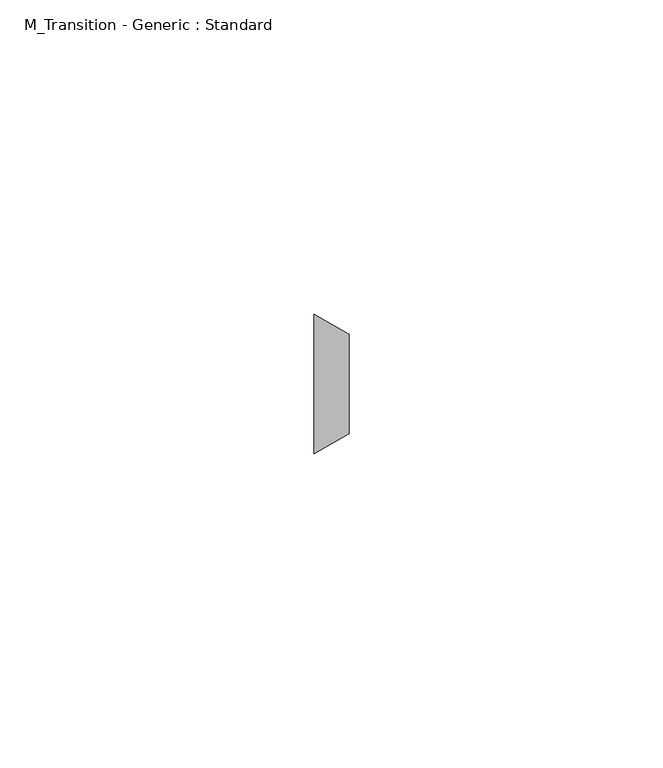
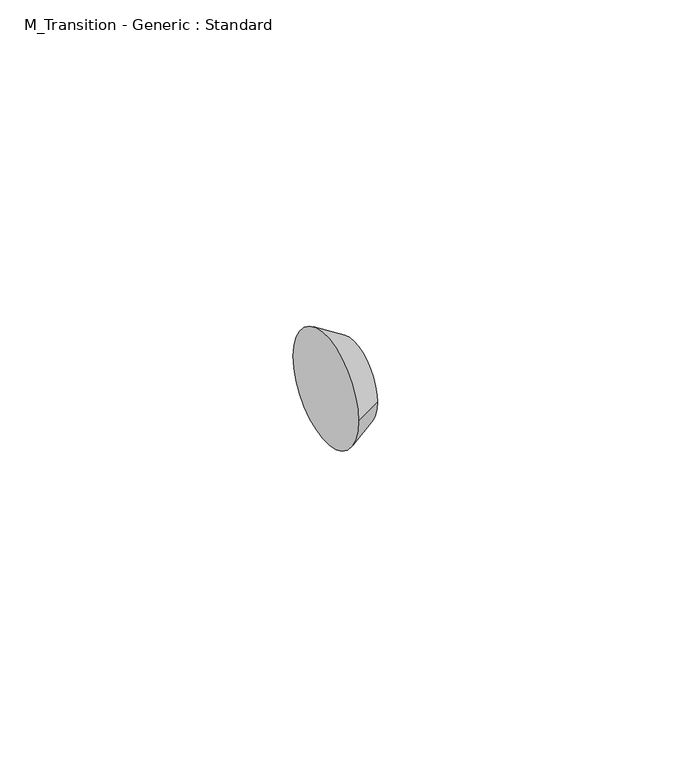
"""IFC4 building model written with IfcOpenShell, lengths in millimetres: pipe fitting geometry, M_Transition - Generic : Standard."""

from ifc_helpers import new_model, si_unit, frame, origin, place, context, project, spatial, polyline, circle_curve, source, transform, mapped, element, save
from ifc_brep_helpers import plane_surface, revolved_surface, advanced_brep


def m_transition_generic_standard_44e35838(model_context):
    return source(origin(), model_context, "Body", "AdvancedBrep", [
        advanced_brep(
        [(5.55625, -7.9375, 0.0), (5.55625, 7.9375, 0.0), (0.0, -11.1125, 0.0), (0.0, 11.1125, 0.0)],
        [
            (0, 1, circle_curve(frame((5.55625, 0.0, 0.0), z_axis=(1.0, 0.0, 0.0), x_axis=(0.0, -1.0, 0.0)), 7.9375)),
            (1, 0, circle_curve(frame((5.55625, 0.0, 0.0), z_axis=(1.0, 0.0, 0.0), x_axis=(0.0, 1.0, 0.0)), 7.9375)),
            (2, 3, circle_curve(frame((0.0, 0.0, 0.0), z_axis=(-1.0, 0.0, 0.0), x_axis=(0.0, 1.0, 0.0)), 11.1125)),
            (3, 2, circle_curve(frame((0.0, 0.0, 0.0), z_axis=(-1.0, 0.0, 0.0), x_axis=(0.0, -1.0, 0.0)), 11.1125)),
            (3, 1),
            (0, 2),
        ],
        [
            plane_surface(frame((5.55625, 0.0, 0.0), z_axis=(1.0, 0.0, 0.0), x_axis=(0.0, 0.0, -1.0))),
            plane_surface(frame((0.0, 0.0, 0.0), z_axis=(-1.0, 0.0, 0.0), x_axis=(0.0, 0.0, -1.0))),
            revolved_surface(polyline([(5.556249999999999, -7.937500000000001, 0.0), (0.0, -11.1125, 0.0)]), (19.446875, 0.0, 0.0), (-1.0, 0.0, 0.0)),
            revolved_surface(polyline([(5.556249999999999, 7.937500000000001, 0.0), (0.0, 11.1125, 0.0)]), (19.446875, 0.0, 0.0), (-1.0, 0.0, 0.0)),
        ],
        [
            (0, [[1, 2]]),
            (1, [[3, 4]]),
            (2, [[-4, 5, -1, 6]]),
            (3, [[-3, -6, -2, -5]]),
        ],
    ),
    ])


if __name__ == "__main__":
    model = new_model("IFC4")
    model_context = context("Model", 3, world=origin())
    ifc_project = project(units=[si_unit("LENGTHUNIT", "METRE", prefix="MILLI")], contexts=[model_context])
    site = spatial("IfcSite", under=ifc_project)
    building = spatial("IfcBuilding", under=site)
    placement = place(None, origin())
    m_transition_generic_standard_shape = m_transition_generic_standard_44e35838(model_context)
    element("IfcPipeFitting", 1, ObjectType="M_Transition - Generic : Standard", at=placement, inside=building, context=model_context, shape_type="MappedRepresentation", body=[
        mapped(m_transition_generic_standard_shape, transform((0.0, 0.0, 0.0), x_axis=(1.0, 0.0, 0.0), y_axis=(0.0, 1.0, 0.0), z_axis=(0.0, 0.0, 1.0))),
    ])
    save(model, "model.ifc")
